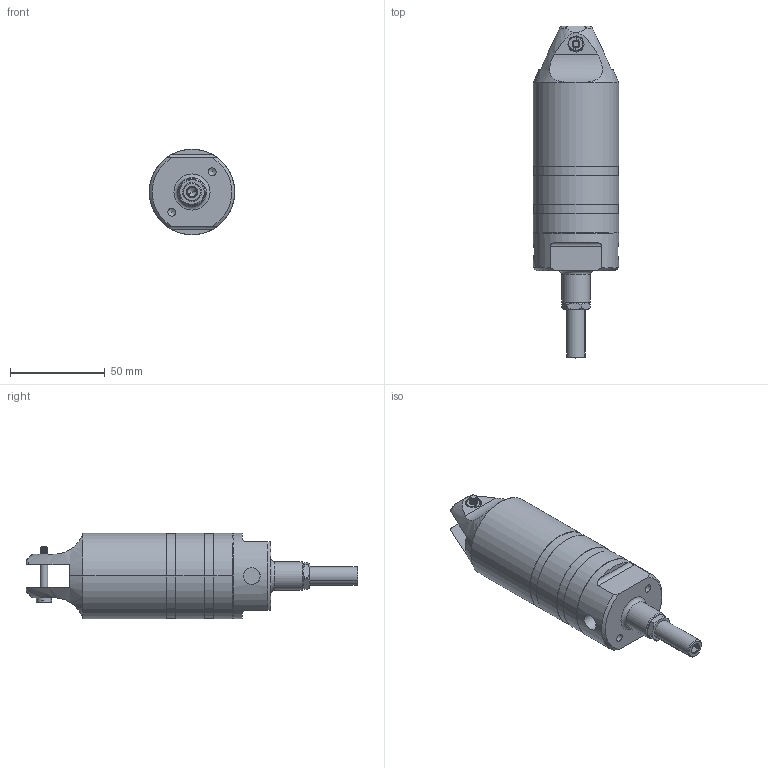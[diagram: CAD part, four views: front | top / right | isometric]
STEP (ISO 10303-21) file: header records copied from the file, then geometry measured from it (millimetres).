
FILE_DESCRIPTION(/* description */ (''),/* implementation_level */ '2;1');
FILE_NAME(/* name */ 'NR20-P-D1',/* time_stamp */ '2022-07-20T09:44:41+08:00',/* author */ (''),/* organization */ (''),/* preprocessor_version */ 'ST-DEVELOPER v9',/* originating_system */ 'UGS - NX 4.0',/* authorisation */ '');
FILE_SCHEMA (('AUTOMOTIVE_DESIGN { 1 0 10303 214 1 1 1 1 }'));
Length unit declared in the file: millimetre
Products named in the file (1): Admi735Aapw7
Bounding box: 45 x 175 x 45 mm (x, y, z)
Volume: 125252 mm3; surface area: 48519.4 mm2
Topology: 3 solids, 6 shells, 294 faces, 770 edges, 509 vertices
Faces by surface type: cylinder 125, plane 85, cone 37, bspline 26, torus 19, sphere 2
Full cylindrical faces by diameter (mm): 4 x1, 4.2 x2, 8 x1, 8.8 x2, 9 x1, 15 x1, 30 x1, 32 x1, 37.8 x1, 38 x1, 41 x1, 45 x1
Entity records: 20604 total; most frequent: CARTESIAN_POINT 11988, ORIENTED_EDGE 1460, DIRECTION 1191, EDGE_CURVE 730, VERTEX_POINT 504, AXIS2_PLACEMENT_3D 487, EDGE_LOOP 356, PRESENTATION_STYLE_ASSIGNMENT 297
